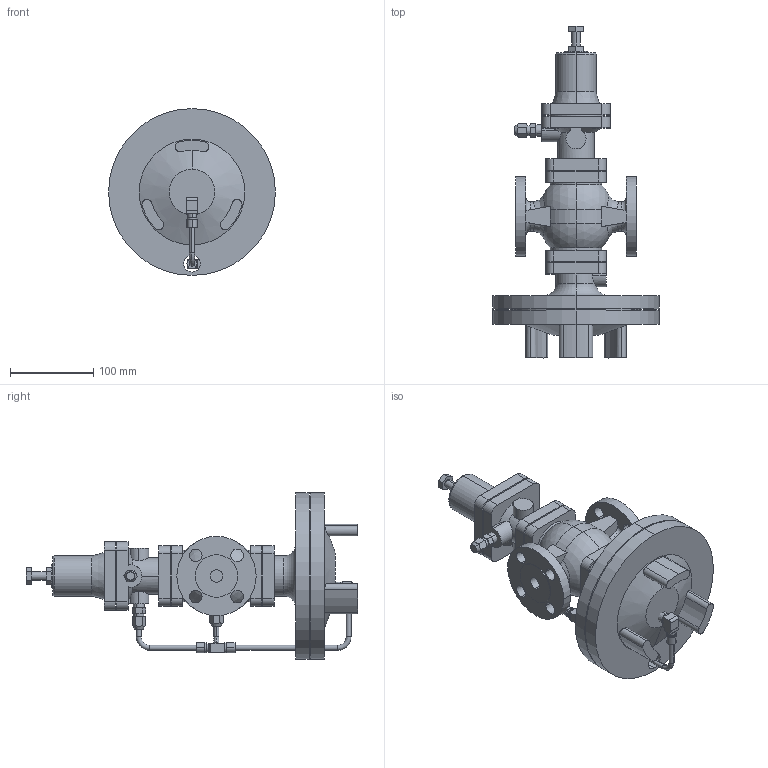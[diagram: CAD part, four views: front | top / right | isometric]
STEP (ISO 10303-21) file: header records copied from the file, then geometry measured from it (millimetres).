
FILE_DESCRIPTION (( 'STEP AP203' ), '1' );
FILE_NAME ('GPR-2000 JIS20K 15A.STEP', '2025-12-05T01:25:16', ( '' ), ( '' ), 'SwSTEP 2.0', 'SolidWorks 2024', '' );
FILE_SCHEMA (( 'CONFIG_CONTROL_DESIGN' ));
Length unit declared in the file: millimetre
Products named in the file (8): Tee; Pipe A 15-25A; Joint; Pipe B 15-20A; GPR-2000 JIS20K 15A; Elbow; Pipe C 15-20A; GPR-2000 Body Assy EN 15A
Assembly tree (9 placements, depth 2):
  GPR-2000 JIS20K 15A
    GPR-2000 Body Assy EN 15A
    Tee
    Joint  x3
    Pipe B 15-20A
    Pipe A 15-25A
    Elbow
    Pipe C 15-20A
Bounding box: 200 x 397.9 x 200 mm (x, y, z)
Volume: 2578270.8 mm3; surface area: 287431.2 mm2
Topology: 9 solids, 9 shells, 410 faces, 1028 edges, 684 vertices
Faces by surface type: plane 187, cylinder 172, cone 27, torus 16, sphere 4, bspline 4
Entity records: 13795 total; most frequent: CARTESIAN_POINT 4039, DIRECTION 1937, ORIENTED_EDGE 1788, EDGE_CURVE 894, AXIS2_PLACEMENT_3D 752, VERTEX_POINT 588, VECTOR 433, LINE 433
